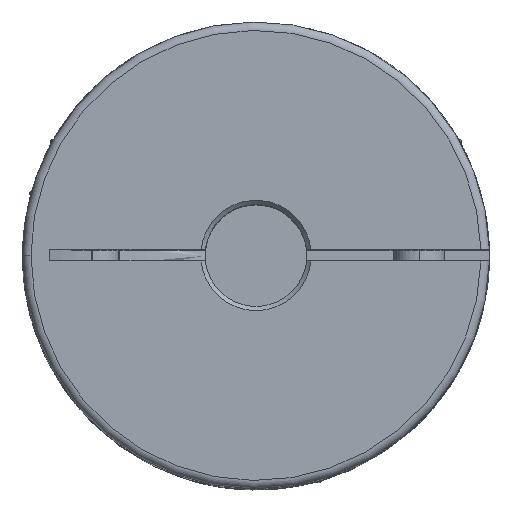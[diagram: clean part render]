
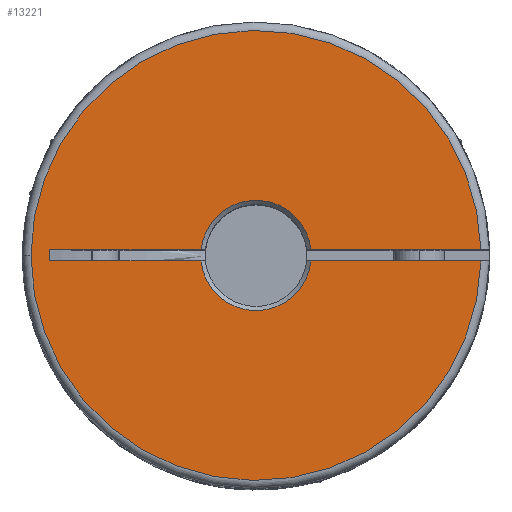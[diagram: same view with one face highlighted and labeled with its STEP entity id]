
A CAD part, top view. The second image highlights one B-rep face of the part: STEP entity #13221.
In plain terms, the highlighted planar face has unit normal (0, 0, 1).
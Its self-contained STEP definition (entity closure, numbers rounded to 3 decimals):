
#158 = AXIS2_PLACEMENT_3D ( 'NONE', #6324, #6325, #6326 ) ;
#337 = CARTESIAN_POINT ( 'NONE',  ( 6.467, -0.65, 39.15 ) ) ;
#342 = CARTESIAN_POINT ( 'NONE',  ( -24.274, -0.65, 39.15 ) ) ;
#346 = CARTESIAN_POINT ( 'NONE',  ( -6.467, 0.65, 39.15 ) ) ;
#348 = CARTESIAN_POINT ( 'NONE',  ( 6.467, 0.65, 39.15 ) ) ;
#349 = CARTESIAN_POINT ( 'NONE',  ( 26.492, 0.65, 39.15 ) ) ;
#351 = CARTESIAN_POINT ( 'NONE',  ( -6.467, -0.65, 39.15 ) ) ;
#3615 = CIRCLE ( 'NONE', #158, 26.5 ) ;
#4388 = FACE_OUTER_BOUND ( 'NONE', #14918, .T. ) ;
#5190 = AXIS2_PLACEMENT_3D ( 'NONE', #10384, #10385, #10386 ) ;
#5191 = AXIS2_PLACEMENT_3D ( 'NONE', #17836, #17837, #17838 ) ;
#5192 = AXIS2_PLACEMENT_3D ( 'NONE', #17842, #17843, #17844 ) ;
#6324 = CARTESIAN_POINT ( 'NONE',  ( 0., 0., 39.15 ) ) ;
#6325 = DIRECTION ( 'NONE',  ( 0., 0., 1. ) ) ;
#6326 = DIRECTION ( 'NONE',  ( -1., 0., 0. ) ) ;
#6943 = VERTEX_POINT ( 'NONE', #8418 ) ;
#6944 = VERTEX_POINT ( 'NONE', #8419 ) ;
#7125 = VERTEX_POINT ( 'NONE', #8598 ) ;
#7577 = CARTESIAN_POINT ( 'NONE',  ( 0., 0., 39.15 ) ) ;
#7584 = PLANE ( 'NONE',  #17207 ) ;
#7587 = DIRECTION ( 'NONE',  ( 0., 0., -1. ) ) ;
#7588 = DIRECTION ( 'NONE',  ( -1., 0., 0. ) ) ;
#8418 = CARTESIAN_POINT ( 'NONE',  ( -26.5, 0., 39.15 ) ) ;
#8419 = CARTESIAN_POINT ( 'NONE',  ( 26.492, -0.65, 39.15 ) ) ;
#8598 = CARTESIAN_POINT ( 'NONE',  ( -24.274, 0.65, 39.15 ) ) ;
#9773 = LINE ( 'NONE', #17841, #9796 ) ;
#9783 = CIRCLE ( 'NONE', #5190, 6.5 ) ;
#9784 = LINE ( 'NONE', #10367, #9785 ) ;
#9785 = VECTOR ( 'NONE', #10371, 1000. ) ;
#9786 = LINE ( 'NONE', #10381, #9788 ) ;
#9787 = CIRCLE ( 'NONE', #5191, 26.5 ) ;
#9788 = VECTOR ( 'NONE', #10377, 1000. ) ;
#9789 = LINE ( 'NONE', #10382, #9791 ) ;
#9790 = CIRCLE ( 'NONE', #5192, 6.5 ) ;
#9791 = VECTOR ( 'NONE', #10383, 1000. ) ;
#9792 = LINE ( 'NONE', #10387, #9794 ) ;
#9794 = VECTOR ( 'NONE', #17839, 1000. ) ;
#9796 = VECTOR ( 'NONE', #17846, 1000. ) ;
#10367 = CARTESIAN_POINT ( 'NONE',  ( 0., 0.65, 39.15 ) ) ;
#10371 = DIRECTION ( 'NONE',  ( 1., 0., 0. ) ) ;
#10377 = DIRECTION ( 'NONE',  ( 1., 0., 0. ) ) ;
#10381 = CARTESIAN_POINT ( 'NONE',  ( 0., 0.65, 39.15 ) ) ;
#10382 = CARTESIAN_POINT ( 'NONE',  ( 0., -0.65, 39.15 ) ) ;
#10383 = DIRECTION ( 'NONE',  ( 1., 0., 0. ) ) ;
#10384 = CARTESIAN_POINT ( 'NONE',  ( 0., 0., 39.15 ) ) ;
#10385 = DIRECTION ( 'NONE',  ( 0., 0., -1. ) ) ;
#10386 = DIRECTION ( 'NONE',  ( 0., 1., 0. ) ) ;
#10387 = CARTESIAN_POINT ( 'NONE',  ( 0., -0.65, 39.15 ) ) ;
#10875 = EDGE_CURVE ( 'NONE', #7125, #14825, #9784, .T. ) ;
#10876 = EDGE_CURVE ( 'NONE', #14825, #14827, #9783, .T. ) ;
#10877 = EDGE_CURVE ( 'NONE', #14827, #14828, #9786, .T. ) ;
#10878 = EDGE_CURVE ( 'NONE', #14828, #6943, #9787, .T. ) ;
#10879 = EDGE_CURVE ( 'NONE', #14816, #6944, #9789, .T. ) ;
#10880 = EDGE_CURVE ( 'NONE', #14816, #14830, #9790, .T. ) ;
#10881 = EDGE_CURVE ( 'NONE', #14821, #14830, #9792, .T. ) ;
#10882 = EDGE_CURVE ( 'NONE', #14821, #7125, #9773, .T. ) ;
#13221 = ADVANCED_FACE ( 'NONE', ( #4388 ), #7584, .F. ) ;
#14816 = VERTEX_POINT ( 'NONE', #337 ) ;
#14821 = VERTEX_POINT ( 'NONE', #342 ) ;
#14825 = VERTEX_POINT ( 'NONE', #346 ) ;
#14827 = VERTEX_POINT ( 'NONE', #348 ) ;
#14828 = VERTEX_POINT ( 'NONE', #349 ) ;
#14830 = VERTEX_POINT ( 'NONE', #351 ) ;
#14918 = EDGE_LOOP ( 'NONE', ( #17571, #17547, #17550, #17546, #17553, #17548, #17552, #17558, #17551 ) ) ;
#16073 = EDGE_CURVE ( 'NONE', #6943, #6944, #3615, .T. ) ;
#17207 = AXIS2_PLACEMENT_3D ( 'NONE', #7577, #7587, #7588 ) ;
#17546 = ORIENTED_EDGE ( 'NONE', *, *, #10878, .T. ) ;
#17547 = ORIENTED_EDGE ( 'NONE', *, *, #10876, .T. ) ;
#17548 = ORIENTED_EDGE ( 'NONE', *, *, #10879, .F. ) ;
#17550 = ORIENTED_EDGE ( 'NONE', *, *, #10877, .T. ) ;
#17551 = ORIENTED_EDGE ( 'NONE', *, *, #10882, .T. ) ;
#17552 = ORIENTED_EDGE ( 'NONE', *, *, #10880, .T. ) ;
#17553 = ORIENTED_EDGE ( 'NONE', *, *, #16073, .T. ) ;
#17558 = ORIENTED_EDGE ( 'NONE', *, *, #10881, .F. ) ;
#17571 = ORIENTED_EDGE ( 'NONE', *, *, #10875, .T. ) ;
#17836 = CARTESIAN_POINT ( 'NONE',  ( 0., 0., 39.15 ) ) ;
#17837 = DIRECTION ( 'NONE',  ( 0., 0., 1. ) ) ;
#17838 = DIRECTION ( 'NONE',  ( -1., 0., 0. ) ) ;
#17839 = DIRECTION ( 'NONE',  ( 1., 0., 0. ) ) ;
#17841 = CARTESIAN_POINT ( 'NONE',  ( -24.274, -0.65, 39.15 ) ) ;
#17842 = CARTESIAN_POINT ( 'NONE',  ( 0., 0., 39.15 ) ) ;
#17843 = DIRECTION ( 'NONE',  ( 0., 0., -1. ) ) ;
#17844 = DIRECTION ( 'NONE',  ( 0., 1., 0. ) ) ;
#17846 = DIRECTION ( 'NONE',  ( 0., 1., 0. ) ) ;
